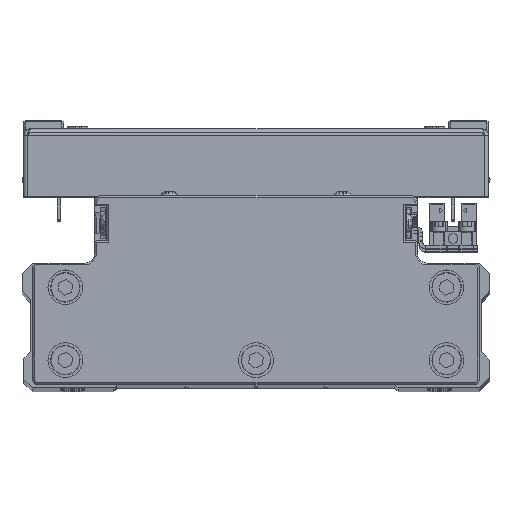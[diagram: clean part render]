
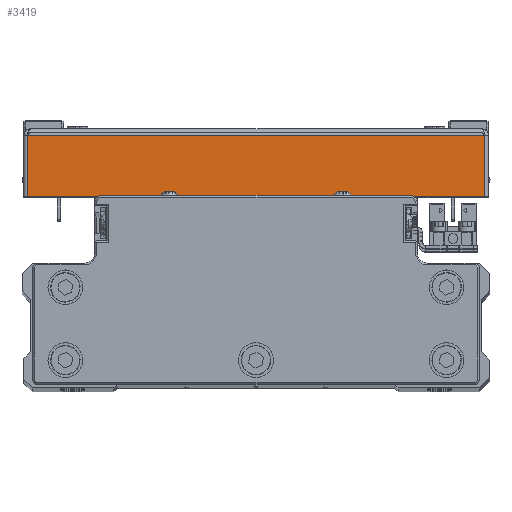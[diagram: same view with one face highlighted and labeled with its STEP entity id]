
A CAD part, top view. The second image highlights one B-rep face of the part: STEP entity #3419.
In plain terms, the highlighted planar face has unit normal (0, 0, 1) as drawn and (1, 0, 0) by its records, which use the part's own axes.
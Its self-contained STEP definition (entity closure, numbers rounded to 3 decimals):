
#380 = VECTOR ( 'NONE', #1310, 1000. ) ;
#976 = EDGE_CURVE ( 'NONE', #31512, #38097, #29846, .T. ) ;
#1310 = DIRECTION ( 'NONE',  ( 0., 0., 1. ) ) ;
#1684 = CARTESIAN_POINT ( 'NONE',  ( 100., 18.5, 65.929 ) ) ;
#2172 = PLANE ( 'NONE',  #11621 ) ;
#3419 = ADVANCED_FACE ( 'NONE', ( #32786 ), #2172, .F. ) ;
#4525 = ORIENTED_EDGE ( 'NONE', *, *, #21105, .F. ) ;
#10303 = LINE ( 'NONE', #23926, #27818 ) ;
#10586 = EDGE_CURVE ( 'NONE', #38097, #18311, #18281, .T. ) ;
#11621 = AXIS2_PLACEMENT_3D ( 'NONE', #15788, #29410, #43062 ) ;
#12002 = CARTESIAN_POINT ( 'NONE',  ( 100., 0., 65.929 ) ) ;
#12873 = DIRECTION ( 'NONE',  ( 0., 1., 0. ) ) ;
#15788 = CARTESIAN_POINT ( 'NONE',  ( 100., 0., 0. ) ) ;
#17541 = CARTESIAN_POINT ( 'NONE',  ( 100., 1., -65.929 ) ) ;
#18281 = LINE ( 'NONE', #31926, #380 ) ;
#18311 = VERTEX_POINT ( 'NONE', #1684 ) ;
#21105 = EDGE_CURVE ( 'NONE', #31512, #40173, #10303, .T. ) ;
#23926 = CARTESIAN_POINT ( 'NONE',  ( 100., 1., 67. ) ) ;
#24037 = ORIENTED_EDGE ( 'NONE', *, *, #10586, .T. ) ;
#25286 = CARTESIAN_POINT ( 'NONE',  ( 100., 18.5, -65.929 ) ) ;
#25617 = DIRECTION ( 'NONE',  ( 0., 1., 0. ) ) ;
#27818 = VECTOR ( 'NONE', #37567, 1000. ) ;
#29298 = VECTOR ( 'NONE', #25617, 1000. ) ;
#29410 = DIRECTION ( 'NONE',  ( -1., 0., 0. ) ) ;
#29846 = LINE ( 'NONE', #43504, #29865 ) ;
#29865 = VECTOR ( 'NONE', #12873, 1000. ) ;
#31272 = EDGE_CURVE ( 'NONE', #40173, #18311, #42626, .T. ) ;
#31512 = VERTEX_POINT ( 'NONE', #17541 ) ;
#31926 = CARTESIAN_POINT ( 'NONE',  ( 100., 18.5, 0. ) ) ;
#32786 = FACE_OUTER_BOUND ( 'NONE', #40922, .T. ) ;
#37567 = DIRECTION ( 'NONE',  ( 0., 0., 1. ) ) ;
#38097 = VERTEX_POINT ( 'NONE', #25286 ) ;
#40173 = VERTEX_POINT ( 'NONE', #41740 ) ;
#40922 = EDGE_LOOP ( 'NONE', ( #4525, #41346, #24037, #44137 ) ) ;
#41346 = ORIENTED_EDGE ( 'NONE', *, *, #976, .T. ) ;
#41740 = CARTESIAN_POINT ( 'NONE',  ( 100., 1., 65.929 ) ) ;
#42626 = LINE ( 'NONE', #12002, #29298 ) ;
#43062 = DIRECTION ( 'NONE',  ( 0., -1., 0. ) ) ;
#43504 = CARTESIAN_POINT ( 'NONE',  ( 100., 0., -65.929 ) ) ;
#44137 = ORIENTED_EDGE ( 'NONE', *, *, #31272, .F. ) ;
